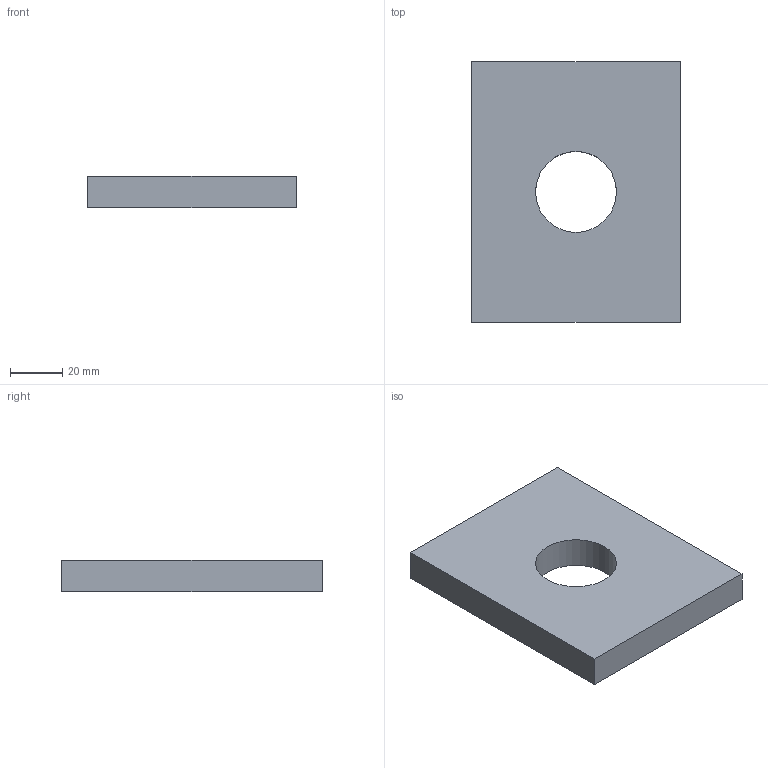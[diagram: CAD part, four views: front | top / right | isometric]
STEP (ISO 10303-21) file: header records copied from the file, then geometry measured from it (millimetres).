
FILE_DESCRIPTION(('Open CASCADE Model'),'2;1');
FILE_NAME('Open CASCADE Shape Model','2026-10-19T10:09:21',('Author'),( 'Open CASCADE'),'Open CASCADE STEP processor 8.0','Open CASCADE 8.0' ,'Unknown');
FILE_SCHEMA(('AUTOMOTIVE_DESIGN { 1 0 10303 214 1 1 1 1 }'));
Length unit declared in the file: millimetre
Products named in the file (1): TC06_OREJA_80x100x12_D31_P05 110
Bounding box: 80 x 100 x 12 mm (x, y, z)
Volume: 86942.8 mm3; surface area: 19979.1 mm2
Topology: 1 solids, 1 shells, 7 faces, 15 edges, 10 vertices
Faces by surface type: plane 6, cylinder 1
Full cylindrical faces by diameter (mm): 31 x1
Entity records: 406 total; most frequent: CARTESIAN_POINT 75, DIRECTION 61, LINE 41, VECTOR 41, ORIENTED_EDGE 30, PCURVE 30, DEFINITIONAL_REPRESENTATION 30, EDGE_CURVE 15
